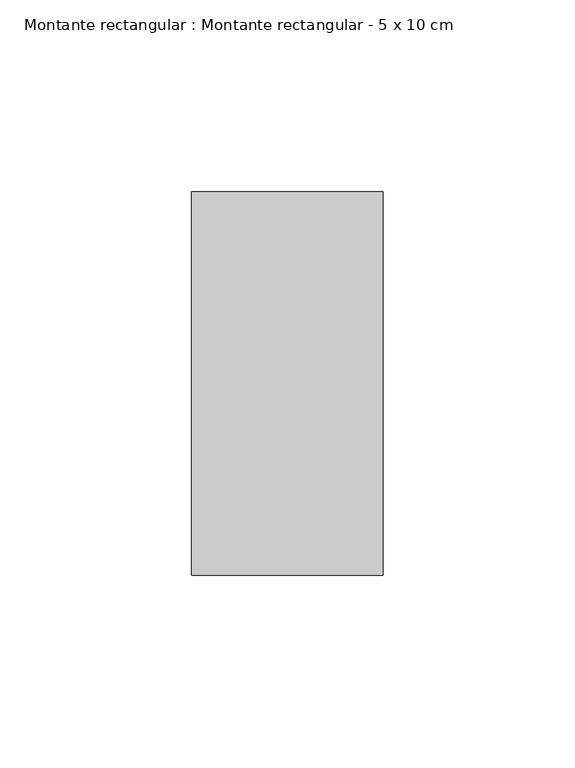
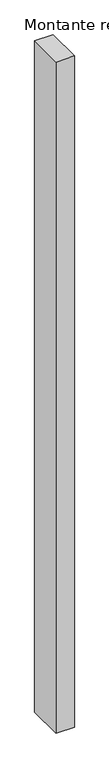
"""IFC4 building model written with IfcOpenShell, lengths in millimetres: member geometry, Montante rectangular : Montante rectangular - 5 x 10 cm."""

import ifcopenshell
import ifcopenshell.guid

model = None  # the IFC model being written
_history = None  # IfcOwnerHistory: only IFC2X3 demands one
_inside = {}  # id of a spatial element -> (the spatial element, [elements in it])
_under = {}  # id of a project, library or spatial element -> (it, [spatial elements below it])
_declared = {}  # id of a project -> (the project, [libraries it declares])
_typed = {}  # id of a type object -> (the type object, [elements of that type])
_made_of = {}  # id of a material, layer set ... -> (it, [elements and type objects made of it])


def new_model(schema):
    """Start an empty IFC model of exactly this schema.

    Asked for "IFC4X3", IfcOpenShell would pick the latest addendum, in which some entities
    have other attributes; the version numbers below select the first issue.
    IFC2X3 requires an IfcOwnerHistory on every rooted entity: one is made here for all.
    """
    global model, _history
    if schema == "IFC4X3":
        model = ifcopenshell.file(schema_version=(4, 3, 0, 0))
    else:
        model = ifcopenshell.file(schema=schema)
    _inside.clear()
    _under.clear()
    _declared.clear()
    _typed.clear()
    _made_of.clear()
    _history = None
    if model.schema == "IFC2X3":
        org = make("IfcOrganization", Name="unknown")
        user = make(
            "IfcPersonAndOrganization",
            ThePerson=make("IfcPerson", FamilyName="unknown"),
            TheOrganization=org,
        )
        app = make(
            "IfcApplication",
            ApplicationDeveloper=org,
            Version="unknown",
            ApplicationFullName="unknown",
            ApplicationIdentifier="unknown",
        )
        _history = make(
            "IfcOwnerHistory",
            OwningUser=user,
            OwningApplication=app,
            ChangeAction="ADDED",
            CreationDate=0,
        )
    return model


def make(cls, **values):
    """One entity of the class cls with the attributes given. An attribute that is None is left unset."""
    return model.create_entity(
        cls, **{name: value for name, value in values.items() if value is not None}
    )


def rooted(cls, **values):
    """An entity with a GlobalId (a new one), such as an element, a storey or a relation."""
    return make(cls, GlobalId=ifcopenshell.guid.new(), OwnerHistory=_history, **values)


def si_unit(unit_type, name, prefix=None):
    """IfcSIUnit, for example si_unit("LENGTHUNIT", "METRE", prefix="MILLI")."""
    return make("IfcSIUnit", UnitType=unit_type, Prefix=prefix, Name=name)


def assignment(units):
    """IfcUnitAssignment: the units of a project."""
    return None if units is None else make("IfcUnitAssignment", Units=units)


def point(xyz):
    """IfcCartesianPoint."""
    return None if xyz is None else make("IfcCartesianPoint", Coordinates=xyz)


def direction(xyz):
    """IfcDirection."""
    return None if xyz is None else make("IfcDirection", DirectionRatios=xyz)


def frame(location, z_axis=None, x_axis=None):
    """IfcAxis2Placement3D, a coordinate frame: its origin and axes. An axis left out is left unset."""
    return make(
        "IfcAxis2Placement3D",
        Location=point(location),
        Axis=direction(z_axis),
        RefDirection=direction(x_axis),
    )


def origin():
    """The frame at (0, 0, 0) with its axes left unset."""
    return frame((0.0, 0.0, 0.0))


def place(relative_to, where):
    """IfcLocalPlacement: puts the frame where relative to a parent placement (None: the world)."""
    return make(
        "IfcLocalPlacement", PlacementRelTo=relative_to, RelativePlacement=where
    )


def context(
    kind, dimensions, precision=None, world=None, true_north=None, identifier=None
):
    """IfcGeometricRepresentationContext, for example the 3D "Model" context."""
    return make(
        "IfcGeometricRepresentationContext",
        ContextIdentifier=identifier,
        ContextType=kind,
        CoordinateSpaceDimension=dimensions,
        Precision=precision,
        WorldCoordinateSystem=world,
        TrueNorth=true_north,
    )


def project(units=None, contexts=None):
    """IfcProject with its units and contexts."""
    return rooted(
        "IfcProject",
        Name="project",
        RepresentationContexts=contexts,
        UnitsInContext=assignment(units),
    )


def spatial(cls, under=None, at=None, **own):
    """A site, building, storey or space (cls), placed at a placement, below another one or the project."""
    s = rooted(cls, ObjectPlacement=at, **own)
    if under is not None:
        _under.setdefault(under.id(), (under, []))[1].append(s)
    return s


def polyline(points):
    """IfcPolyline through the points."""
    return make("IfcPolyline", Points=[point(p) for p in points])


def outline(outer, holes=None, kind="AREA"):
    """IfcArbitraryClosedProfileDef: a profile drawn as a closed curve; with holes, ...WithVoids."""
    if holes is None:
        return make("IfcArbitraryClosedProfileDef", ProfileType=kind, OuterCurve=outer)
    return make(
        "IfcArbitraryProfileDefWithVoids",
        ProfileType=kind,
        OuterCurve=outer,
        InnerCurves=holes,
    )


def extrude(swept, where, along, depth):
    """IfcExtrudedAreaSolid: the profile swept, set in the frame where, extruded along a direction by depth."""
    return make(
        "IfcExtrudedAreaSolid",
        SweptArea=swept,
        Position=where,
        ExtrudedDirection=direction(along),
        Depth=depth,
    )


def shape(context_of_items, identifier, shape_type, items):
    """IfcShapeRepresentation: the items that make up one representation, for example the "Body"."""
    return make(
        "IfcShapeRepresentation",
        ContextOfItems=context_of_items,
        RepresentationIdentifier=identifier,
        RepresentationType=shape_type,
        Items=items,
    )


def source(mapping_origin, context_of_items, identifier, shape_type, items):
    """IfcRepresentationMap: a shape defined once, which mapped items show again and again."""
    return make(
        "IfcRepresentationMap",
        MappingOrigin=mapping_origin,
        MappedRepresentation=shape(context_of_items, identifier, shape_type, items),
    )


def transform(
    local_origin,
    x_axis=None,
    y_axis=None,
    z_axis=None,
    scale=None,
    scale2=None,
    scale3=None,
    uniform=True,
):
    """IfcCartesianTransformationOperator3D, or its non-uniform kind. x_axis, y_axis, z_axis: its Axis1, 2, 3."""
    if uniform:
        return make(
            "IfcCartesianTransformationOperator3D",
            Axis1=direction(x_axis),
            Axis2=direction(y_axis),
            LocalOrigin=point(local_origin),
            Scale=scale,
            Axis3=direction(z_axis),
        )
    return make(
        "IfcCartesianTransformationOperator3DnonUniform",
        Axis1=direction(x_axis),
        Axis2=direction(y_axis),
        LocalOrigin=point(local_origin),
        Scale=scale,
        Axis3=direction(z_axis),
        Scale2=scale2,
        Scale3=scale3,
    )


def mapped(mapping_source, mapping_target):
    """IfcMappedItem: shows the shape of a source again, moved by a transform."""
    return make(
        "IfcMappedItem", MappingSource=mapping_source, MappingTarget=mapping_target
    )


def made_of(thing, what):
    """Note that an element or type object is made of a material, layer set ...; save() writes the relation."""
    if what is not None:
        _made_of.setdefault(what.id(), (what, []))[1].append(thing)
    return thing


def element(
    cls,
    number,
    at=None,
    inside=None,
    cuts=None,
    type_object=None,
    material=None,
    context=None,
    identifier="Body",
    shape_type=None,
    held_by="IfcProductDefinitionShape",
    body=None,
    shapes=None,
    **own,
):
    """One element of the class cls, such as IfcWall. Its Tag is "e" and its number.

    at: its placement. inside: the storey or other place that contains it. cuts: it is an
    opening in that element (IfcRelVoidsElement). A single representation is given by context,
    identifier, shape_type and body (its items); several are given by shapes. held_by: the class
    of the entity that holds the representations. save() writes the other relations.
    """
    e = rooted(cls, Tag="e%d" % number, ObjectPlacement=at, **own)
    if body is not None:
        shapes = [shape(context, identifier, shape_type, body)]
    if shapes is not None:
        e.Representation = make(held_by, Representations=shapes)
    if inside is not None:
        _inside.setdefault(inside.id(), (inside, []))[1].append(e)
    if cuts is not None:
        rooted(
            "IfcRelVoidsElement", RelatingBuildingElement=cuts, RelatedOpeningElement=e
        )
    if type_object is not None:
        _typed.setdefault(type_object.id(), (type_object, []))[1].append(e)
    return made_of(e, material)


def aggregate(whole, parts):
    """IfcRelAggregates: a whole, such as a stair, and the parts it consists of."""
    return rooted("IfcRelAggregates", RelatingObject=whole, RelatedObjects=parts)


def save(model, path):
    """Write the relations noted so far, then the file.

    IfcRelAggregates (storeys below a building ...), IfcRelContainedInSpatialStructure (elements
    in a storey), IfcRelDefinesByType, IfcRelAssociatesMaterial and IfcRelDeclares: one each for
    every whole, place, type object, material and project.
    """
    for whole, parts in _under.values():
        aggregate(whole, parts)
    for where, things in _inside.values():
        rooted(
            "IfcRelContainedInSpatialStructure",
            RelatedElements=things,
            RelatingStructure=where,
        )
    for kind, things in _typed.values():
        rooted("IfcRelDefinesByType", RelatedObjects=things, RelatingType=kind)
    for what, things in _made_of.values():
        rooted("IfcRelAssociatesMaterial", RelatedObjects=things, RelatingMaterial=what)
    for by, libraries in _declared.values():
        rooted("IfcRelDeclares", RelatingContext=by, RelatedDefinitions=libraries)
    model.write(path)


def montante_rectangular_montante_rectangular_5_x_10_cm_99c1b7ad(model_context):
    return source(origin(), model_context, "Body", "SweptSolid", [
        extrude(outline(polyline([(25.0, 50.0), (25.0, -50.0), (-25.0, -50.0), (-25.0, 50.0), (25.0, 50.0)])), frame((0.0, 0.0, -1930.0), z_axis=(0.0, 0.0, 1.0), x_axis=(1.0, 0.0, 0.0)), (0.0, 0.0, 1.0), 1930.0),
    ])


if __name__ == "__main__":
    model = new_model("IFC4")
    model_context = context("Model", 3, world=origin())
    ifc_project = project(units=[si_unit("LENGTHUNIT", "METRE", prefix="MILLI")], contexts=[model_context])
    site = spatial("IfcSite", under=ifc_project)
    building = spatial("IfcBuilding", under=site)
    placement = place(None, origin())
    montante_rectangular_montante_rectangular_5_x_10_cm_shape = montante_rectangular_montante_rectangular_5_x_10_cm_99c1b7ad(model_context)
    element("IfcMember", 1, ObjectType="Montante rectangular : Montante rectangular - 5 x 10 cm", at=placement, inside=building, context=model_context, shape_type="MappedRepresentation", body=[
        mapped(montante_rectangular_montante_rectangular_5_x_10_cm_shape, transform((0.0, 0.0, 0.0), x_axis=(1.0, 0.0, 0.0), y_axis=(0.0, 1.0, 0.0), z_axis=(0.0, 0.0, 1.0))),
    ])
    save(model, "model.ifc")
